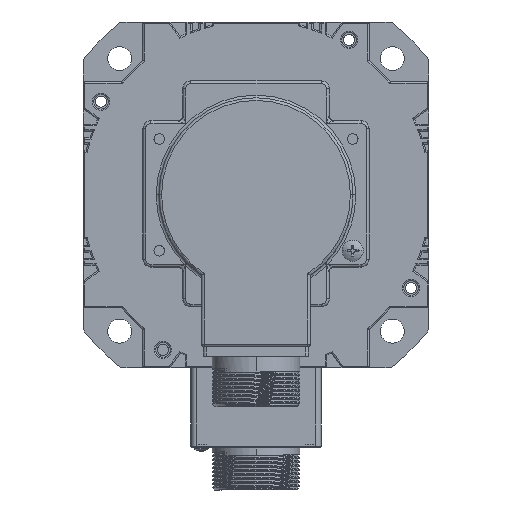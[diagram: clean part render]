
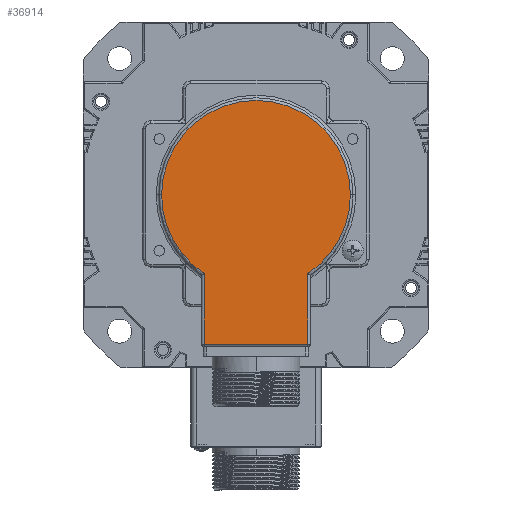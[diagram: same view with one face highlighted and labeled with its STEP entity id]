
A CAD part, front view. The second image highlights one B-rep face of the part: STEP entity #36914.
In plain terms, the highlighted planar face has unit normal (0, -1, 0) as drawn and (0, 0, -1) by its records, which use the part's own axes.
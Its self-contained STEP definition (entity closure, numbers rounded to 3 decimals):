
#325 = FACE_OUTER_BOUND ( 'NONE', #50753, .T. ) ;
#407 = PLANE ( 'NONE',  #1161 ) ;
#1161 = AXIS2_PLACEMENT_3D ( 'NONE', #64652, #1606, #49484 ) ;
#1606 = DIRECTION ( 'NONE',  ( 0., 0., -1. ) ) ;
#1882 = DIRECTION ( 'NONE',  ( 0., 0., -1. ) ) ;
#2045 = CARTESIAN_POINT ( 'NONE',  ( -19.5, 57.15, -33. ) ) ;
#2849 = ORIENTED_EDGE ( 'NONE', *, *, #58788, .T. ) ;
#3113 = AXIS2_PLACEMENT_3D ( 'NONE', #7057, #7518, #55626 ) ;
#3717 = EDGE_CURVE ( 'NONE', #13930, #10901, #46276, .T. ) ;
#7057 = CARTESIAN_POINT ( 'NONE',  ( 0., 0., -33. ) ) ;
#7518 = DIRECTION ( 'NONE',  ( 0., 0., -1. ) ) ;
#10260 = CARTESIAN_POINT ( 'NONE',  ( -19.5, 29.665, -33. ) ) ;
#10374 = VECTOR ( 'NONE', #66833, 1000. ) ;
#10793 = CARTESIAN_POINT ( 'NONE',  ( 20.5, 56.15, -33. ) ) ;
#10901 = VERTEX_POINT ( 'NONE', #46387 ) ;
#12606 = DIRECTION ( 'NONE',  ( -1., 0., 0. ) ) ;
#13525 = VERTEX_POINT ( 'NONE', #28362 ) ;
#13930 = VERTEX_POINT ( 'NONE', #54179 ) ;
#15650 = ORIENTED_EDGE ( 'NONE', *, *, #53030, .T. ) ;
#15863 = ORIENTED_EDGE ( 'NONE', *, *, #40197, .T. ) ;
#19216 = VECTOR ( 'NONE', #28480, 1000. ) ;
#21158 = ORIENTED_EDGE ( 'NONE', *, *, #3717, .T. ) ;
#22704 = EDGE_CURVE ( 'NONE', #13525, #42084, #64716, .T. ) ;
#23803 = VERTEX_POINT ( 'NONE', #41560 ) ;
#26455 = AXIS2_PLACEMENT_3D ( 'NONE', #64153, #58582, #69324 ) ;
#27508 = EDGE_CURVE ( 'NONE', #23803, #13930, #48447, .T. ) ;
#28362 = CARTESIAN_POINT ( 'NONE',  ( 35.5, 0., -33. ) ) ;
#28480 = DIRECTION ( 'NONE',  ( 0., 1., 0. ) ) ;
#33615 = VERTEX_POINT ( 'NONE', #10260 ) ;
#36733 = ORIENTED_EDGE ( 'NONE', *, *, #27508, .T. ) ;
#36914 = ADVANCED_FACE ( 'NONE', ( #325 ), #407, .T. ) ;
#40197 = EDGE_CURVE ( 'NONE', #33615, #23803, #48466, .T. ) ;
#40459 = CIRCLE ( 'NONE', #3113, 35.5 ) ;
#40705 = CARTESIAN_POINT ( 'NONE',  ( 19.5, 30.199, -33. ) ) ;
#41560 = CARTESIAN_POINT ( 'NONE',  ( -19.5, 56.15, -33. ) ) ;
#42084 = VERTEX_POINT ( 'NONE', #53134 ) ;
#42554 = ORIENTED_EDGE ( 'NONE', *, *, #22704, .T. ) ;
#46276 = LINE ( 'NONE', #40705, #10374 ) ;
#46387 = CARTESIAN_POINT ( 'NONE',  ( 19.5, 29.665, -33. ) ) ;
#48447 = LINE ( 'NONE', #10793, #61040 ) ;
#48466 = LINE ( 'NONE', #2045, #19216 ) ;
#49484 = DIRECTION ( 'NONE',  ( -1., 0., 0. ) ) ;
#50753 = EDGE_LOOP ( 'NONE', ( #15863, #36733, #21158, #15650, #42554, #2849 ) ) ;
#51905 = DIRECTION ( 'NONE',  ( 1., 0., 0. ) ) ;
#53030 = EDGE_CURVE ( 'NONE', #10901, #13525, #66691, .T. ) ;
#53134 = CARTESIAN_POINT ( 'NONE',  ( -35.5, 0., -33. ) ) ;
#54179 = CARTESIAN_POINT ( 'NONE',  ( 19.5, 56.15, -33. ) ) ;
#55626 = DIRECTION ( 'NONE',  ( -1., 0., 0. ) ) ;
#58582 = DIRECTION ( 'NONE',  ( 0., 0., -1. ) ) ;
#58788 = EDGE_CURVE ( 'NONE', #42084, #33615, #40459, .T. ) ;
#61040 = VECTOR ( 'NONE', #51905, 1000. ) ;
#63251 = AXIS2_PLACEMENT_3D ( 'NONE', #65853, #1882, #12606 ) ;
#64153 = CARTESIAN_POINT ( 'NONE',  ( 0., 0., -33. ) ) ;
#64652 = CARTESIAN_POINT ( 'NONE',  ( 0., 0., -33. ) ) ;
#64716 = CIRCLE ( 'NONE', #26455, 35.5 ) ;
#65853 = CARTESIAN_POINT ( 'NONE',  ( 0., 0., -33. ) ) ;
#66691 = CIRCLE ( 'NONE', #63251, 35.5 ) ;
#66833 = DIRECTION ( 'NONE',  ( 0., -1., 0. ) ) ;
#69324 = DIRECTION ( 'NONE',  ( -1., 0., 0. ) ) ;
